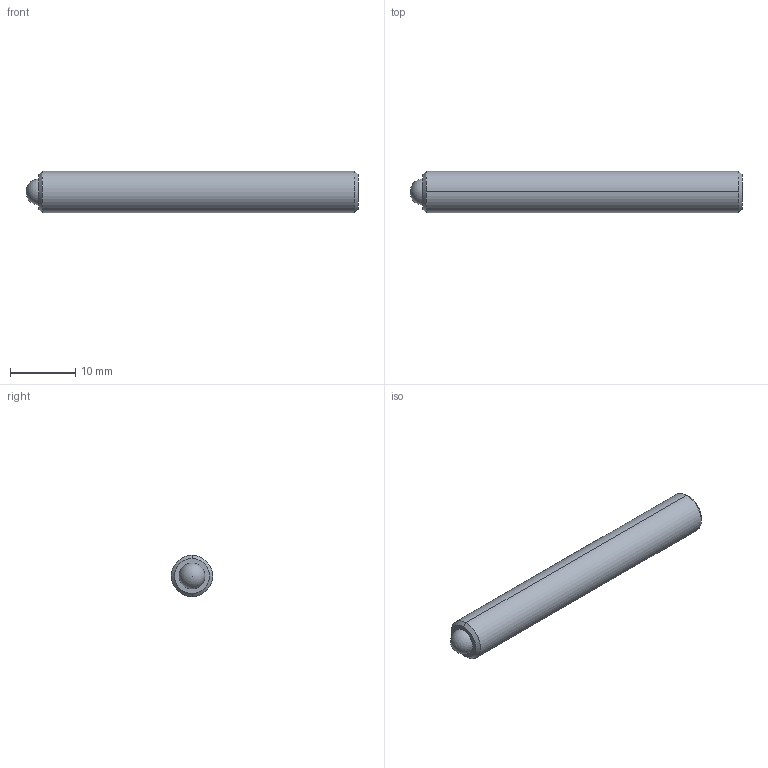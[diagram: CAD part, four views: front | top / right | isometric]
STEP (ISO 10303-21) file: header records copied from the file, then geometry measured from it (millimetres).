
FILE_DESCRIPTION (( 'STEP AP214' ), '1' );
FILE_NAME ('TS250-100-2000.STEP', '2013-02-11T23:19:46', ( 'workpc' ), ( 'Microsoft' ), 'SwSTEP 2.0', 'SolidWorks 2013', '' );
FILE_SCHEMA (( 'AUTOMOTIVE_DESIGN' ));
Length unit declared in the file: inch
Products named in the file (1): TS250-100-2000
Bounding box: 50.8 x 6.35 x 6.35 mm (x, y, z)
Volume: 1538.1 mm3; surface area: 1117.7 mm2
Topology: 2 solids, 2 shells, 20 faces, 45 edges, 29 vertices
Faces by surface type: plane 10, cylinder 4, cone 4, sphere 2
Entity records: 599 total; most frequent: DIRECTION 96, CARTESIAN_POINT 87, ORIENTED_EDGE 80, EDGE_CURVE 40, AXIS2_PLACEMENT_3D 35, LINE 26, VECTOR 26, VERTEX_POINT 26
